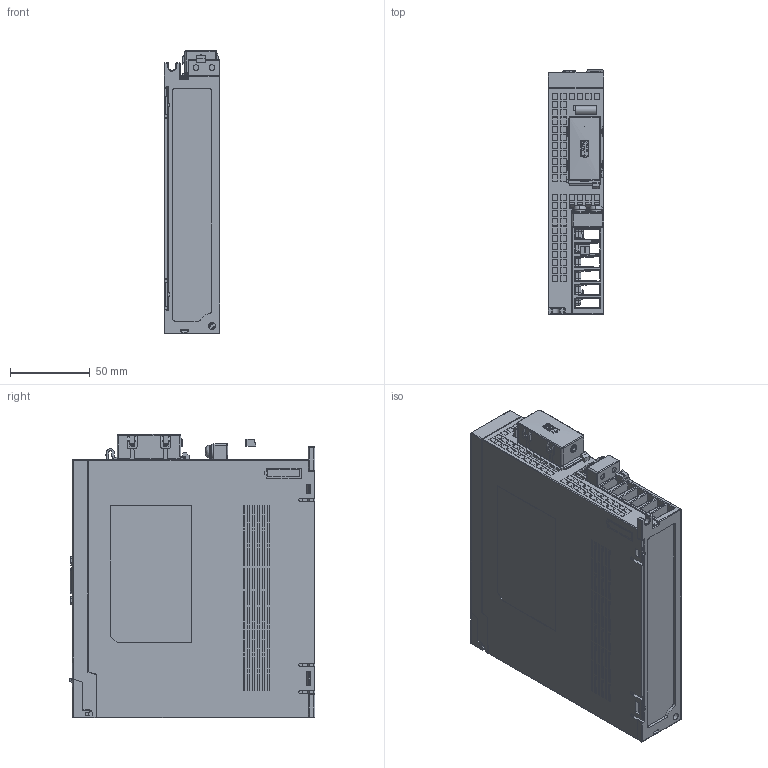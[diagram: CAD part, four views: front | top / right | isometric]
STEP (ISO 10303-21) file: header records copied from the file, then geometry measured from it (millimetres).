
FILE_DESCRIPTION((''),'2;1');
FILE_NAME('REP0002_SW00015','2021-09-03T',('Administrator'),(''),'PRO/ENGINEER BY PARAMETRIC TECHNOLOGY CORPORATION, 2010280','PRO/ENGINEER BY PARAMETRIC TECHNOLOGY CORPORATION, 2010280','');
FILE_SCHEMA(('CONFIG_CONTROL_DESIGN'));
Products named in the file (1): REP0002_SW00015
Bounding box: 35 x 154 x 178 mm (x, y, z)
Volume: 645239.6 mm3; surface area: 177711.1 mm2
Topology: 3 solids, 7 shells, 3359 faces, 9075 edges, 5797 vertices
Faces by surface type: plane 2282, cylinder 739, bspline 137, sphere 96, extrusion 43, torus 37, cone 20, revolution 5
Entity records: 125216 total; most frequent: CARTESIAN_POINT 41818, ORIENTED_EDGE 18120, DIRECTION 15790, EDGE_CURVE 9060, VECTOR 7121, LINE 7078, VERTEX_POINT 5797, AXIS2_PLACEMENT_3D 4332
